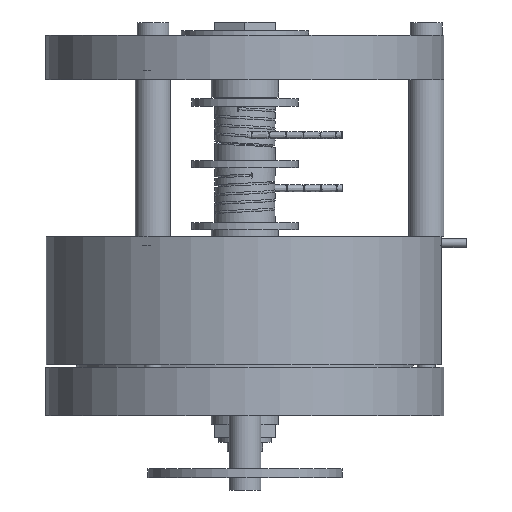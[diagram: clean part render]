
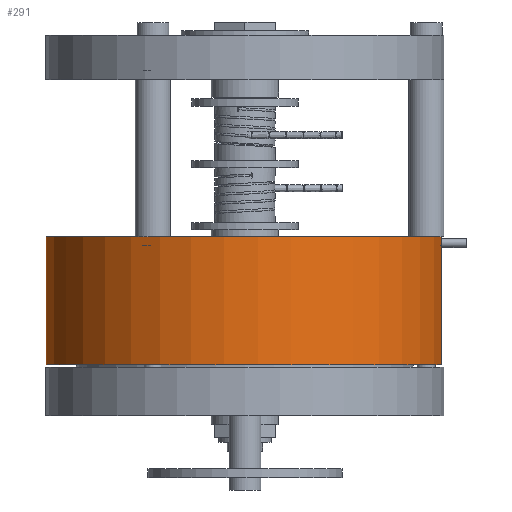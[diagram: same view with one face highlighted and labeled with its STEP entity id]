
A CAD part, left-side view. The second image highlights one B-rep face of the part: STEP entity #291.
In plain terms, the highlighted cylindrical face has radius 22.5 mm (diameter 45 mm), a partial arc.
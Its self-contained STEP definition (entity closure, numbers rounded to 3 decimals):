
#175 = EDGE_CURVE('',#176,#178,#180,.T.);
#176 = VERTEX_POINT('',#177);
#177 = CARTESIAN_POINT('',(22.5,0.,-0.25));
#178 = VERTEX_POINT('',#179);
#179 = CARTESIAN_POINT('',(22.5,0.,14.25));
#180 = SURFACE_CURVE('',#181,(#185,#197),.PCURVE_S1.);
#181 = LINE('',#182,#183);
#182 = CARTESIAN_POINT('',(22.5,0.,-0.25));
#183 = VECTOR('',#184,1.);
#184 = DIRECTION('',(0.,0.,1.));
#185 = PCURVE('',#186,#191);
#186 = CYLINDRICAL_SURFACE('',#187,22.5);
#187 = AXIS2_PLACEMENT_3D('',#188,#189,#190);
#188 = CARTESIAN_POINT('',(0.,0.,-0.25));
#189 = DIRECTION('',(0.,0.,1.));
#190 = DIRECTION('',(1.,0.,-0.));
#191 = DEFINITIONAL_REPRESENTATION('',(#192),#196);
#192 = LINE('',#193,#194);
#193 = CARTESIAN_POINT('',(6.283,-0.));
#194 = VECTOR('',#195,1.);
#195 = DIRECTION('',(0.,1.));
#196 = ( GEOMETRIC_REPRESENTATION_CONTEXT(2) 
PARAMETRIC_REPRESENTATION_CONTEXT() REPRESENTATION_CONTEXT('2D SPACE',''
  ) );
#197 = PCURVE('',#198,#203);
#198 = CYLINDRICAL_SURFACE('',#199,22.5);
#199 = AXIS2_PLACEMENT_3D('',#200,#201,#202);
#200 = CARTESIAN_POINT('',(0.,0.,-0.25));
#201 = DIRECTION('',(0.,0.,1.));
#202 = DIRECTION('',(1.,0.,-0.));
#203 = DEFINITIONAL_REPRESENTATION('',(#204),#208);
#204 = LINE('',#205,#206);
#205 = CARTESIAN_POINT('',(0.,-0.));
#206 = VECTOR('',#207,1.);
#207 = DIRECTION('',(0.,1.));
#208 = ( GEOMETRIC_REPRESENTATION_CONTEXT(2) 
PARAMETRIC_REPRESENTATION_CONTEXT() REPRESENTATION_CONTEXT('2D SPACE',''
  ) );
#227 = PLANE('',#228);
#228 = AXIS2_PLACEMENT_3D('',#229,#230,#231);
#229 = CARTESIAN_POINT('',(0.,0.,14.25));
#230 = DIRECTION('',(0.,0.,1.));
#231 = DIRECTION('',(1.,0.,-0.));
#280 = PLANE('',#281);
#281 = AXIS2_PLACEMENT_3D('',#282,#283,#284);
#282 = CARTESIAN_POINT('',(0.,0.,-0.25));
#283 = DIRECTION('',(0.,0.,1.));
#284 = DIRECTION('',(1.,0.,-0.));
#291 = ADVANCED_FACE('',(#292),#198,.T.);
#292 = FACE_BOUND('',#293,.T.);
#293 = EDGE_LOOP('',(#294,#318,#319,#343));
#294 = ORIENTED_EDGE('',*,*,#295,.F.);
#295 = EDGE_CURVE('',#178,#296,#298,.T.);
#296 = VERTEX_POINT('',#297);
#297 = CARTESIAN_POINT('',(-3.5,-22.226,14.25));
#298 = SURFACE_CURVE('',#299,(#304,#311),.PCURVE_S1.);
#299 = CIRCLE('',#300,22.5);
#300 = AXIS2_PLACEMENT_3D('',#301,#302,#303);
#301 = CARTESIAN_POINT('',(0.,0.,14.25));
#302 = DIRECTION('',(0.,0.,1.));
#303 = DIRECTION('',(1.,0.,-0.));
#304 = PCURVE('',#198,#305);
#305 = DEFINITIONAL_REPRESENTATION('',(#306),#310);
#306 = LINE('',#307,#308);
#307 = CARTESIAN_POINT('',(0.,14.5));
#308 = VECTOR('',#309,1.);
#309 = DIRECTION('',(1.,0.));
#310 = ( GEOMETRIC_REPRESENTATION_CONTEXT(2) 
PARAMETRIC_REPRESENTATION_CONTEXT() REPRESENTATION_CONTEXT('2D SPACE',''
  ) );
#311 = PCURVE('',#227,#312);
#312 = DEFINITIONAL_REPRESENTATION('',(#313),#317);
#313 = CIRCLE('',#314,22.5);
#314 = AXIS2_PLACEMENT_2D('',#315,#316);
#315 = CARTESIAN_POINT('',(0.,0.));
#316 = DIRECTION('',(1.,0.));
#317 = ( GEOMETRIC_REPRESENTATION_CONTEXT(2) 
PARAMETRIC_REPRESENTATION_CONTEXT() REPRESENTATION_CONTEXT('2D SPACE',''
  ) );
#318 = ORIENTED_EDGE('',*,*,#175,.F.);
#319 = ORIENTED_EDGE('',*,*,#320,.T.);
#320 = EDGE_CURVE('',#176,#321,#323,.T.);
#321 = VERTEX_POINT('',#322);
#322 = CARTESIAN_POINT('',(-3.5,-22.226,-0.25));
#323 = SURFACE_CURVE('',#324,(#329,#336),.PCURVE_S1.);
#324 = CIRCLE('',#325,22.5);
#325 = AXIS2_PLACEMENT_3D('',#326,#327,#328);
#326 = CARTESIAN_POINT('',(0.,0.,-0.25));
#327 = DIRECTION('',(0.,0.,1.));
#328 = DIRECTION('',(1.,0.,-0.));
#329 = PCURVE('',#198,#330);
#330 = DEFINITIONAL_REPRESENTATION('',(#331),#335);
#331 = LINE('',#332,#333);
#332 = CARTESIAN_POINT('',(0.,0.));
#333 = VECTOR('',#334,1.);
#334 = DIRECTION('',(1.,0.));
#335 = ( GEOMETRIC_REPRESENTATION_CONTEXT(2) 
PARAMETRIC_REPRESENTATION_CONTEXT() REPRESENTATION_CONTEXT('2D SPACE',''
  ) );
#336 = PCURVE('',#280,#337);
#337 = DEFINITIONAL_REPRESENTATION('',(#338),#342);
#338 = CIRCLE('',#339,22.5);
#339 = AXIS2_PLACEMENT_2D('',#340,#341);
#340 = CARTESIAN_POINT('',(0.,0.));
#341 = DIRECTION('',(1.,0.));
#342 = ( GEOMETRIC_REPRESENTATION_CONTEXT(2) 
PARAMETRIC_REPRESENTATION_CONTEXT() REPRESENTATION_CONTEXT('2D SPACE',''
  ) );
#343 = ORIENTED_EDGE('',*,*,#344,.T.);
#344 = EDGE_CURVE('',#321,#296,#345,.T.);
#345 = SURFACE_CURVE('',#346,(#350,#356),.PCURVE_S1.);
#346 = LINE('',#347,#348);
#347 = CARTESIAN_POINT('',(-3.5,-22.226,-0.25));
#348 = VECTOR('',#349,1.);
#349 = DIRECTION('',(0.,0.,1.));
#350 = PCURVE('',#198,#351);
#351 = DEFINITIONAL_REPRESENTATION('',(#352),#355);
#352 = B_SPLINE_CURVE_WITH_KNOTS('',1,(#353,#354),.UNSPECIFIED.,.F.,.F.,
  (2,2),(0.,14.5),.PIECEWISE_BEZIER_KNOTS.);
#353 = CARTESIAN_POINT('',(4.556,0.));
#354 = CARTESIAN_POINT('',(4.556,14.5));
#355 = ( GEOMETRIC_REPRESENTATION_CONTEXT(2) 
PARAMETRIC_REPRESENTATION_CONTEXT() REPRESENTATION_CONTEXT('2D SPACE',''
  ) );
#356 = PCURVE('',#357,#362);
#357 = PLANE('',#358);
#358 = AXIS2_PLACEMENT_3D('',#359,#360,#361);
#359 = CARTESIAN_POINT('',(-3.5,-27.,-1.));
#360 = DIRECTION('',(1.,0.,0.));
#361 = DIRECTION('',(0.,0.,1.));
#362 = DEFINITIONAL_REPRESENTATION('',(#363),#366);
#363 = B_SPLINE_CURVE_WITH_KNOTS('',1,(#364,#365),.UNSPECIFIED.,.F.,.F.,
  (2,2),(0.,14.5),.PIECEWISE_BEZIER_KNOTS.);
#364 = CARTESIAN_POINT('',(0.75,-4.774));
#365 = CARTESIAN_POINT('',(15.25,-4.774));
#366 = ( GEOMETRIC_REPRESENTATION_CONTEXT(2) 
PARAMETRIC_REPRESENTATION_CONTEXT() REPRESENTATION_CONTEXT('2D SPACE',''
  ) );
